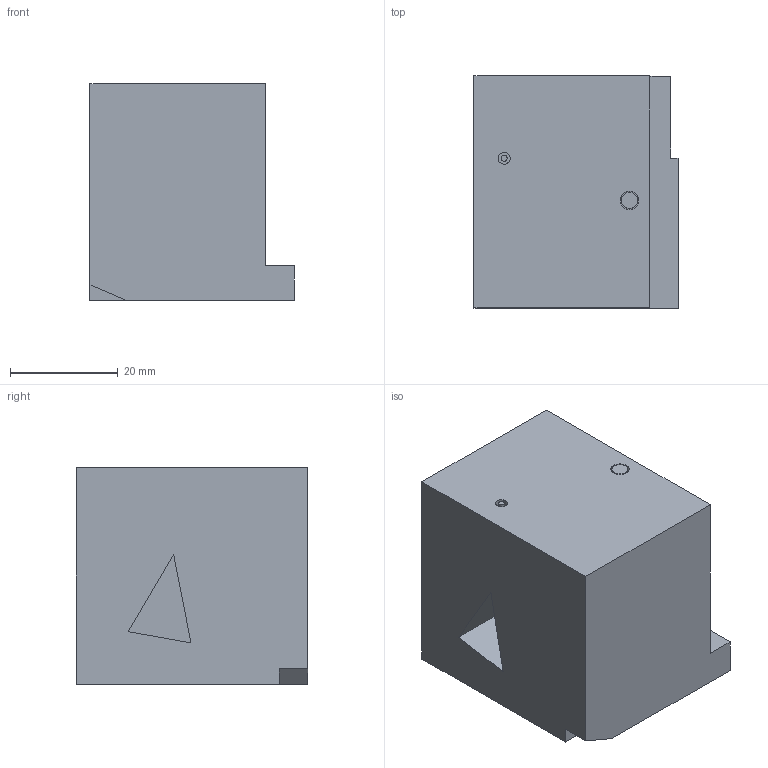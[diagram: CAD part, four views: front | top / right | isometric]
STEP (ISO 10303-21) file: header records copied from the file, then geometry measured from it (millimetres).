
FILE_DESCRIPTION(('Open CASCADE Model'),'2;1');
FILE_NAME('Open CASCADE Shape Model','2021-04-30T09:33:36',('Author'),( 'Open CASCADE'),'Open CASCADE STEP processor 7.4','Open CASCADE 7.4' ,'Unknown');
FILE_SCHEMA(('AUTOMOTIVE_DESIGN { 1 0 10303 214 1 1 1 1 }'));
Length unit declared in the file: millimetre
Products named in the file (1): Open CASCADE STEP translator 7.4 16
Bounding box: 37.87 x 43.04 x 40.27 mm (x, y, z)
Volume: 55875.5 mm3; surface area: 11042.1 mm2
Topology: 1 solids, 1 shells, 25 faces, 54 edges, 36 vertices
Faces by surface type: plane 21, cylinder 4
Full cylindrical faces by diameter (mm): 1.109 x1, 2.232 x1, 2.971 x1, 3.396 x1
Entity records: 1400 total; most frequent: CARTESIAN_POINT 248, DIRECTION 218, LINE 146, VECTOR 146, ORIENTED_EDGE 108, PCURVE 108, DEFINITIONAL_REPRESENTATION 108, EDGE_CURVE 54
